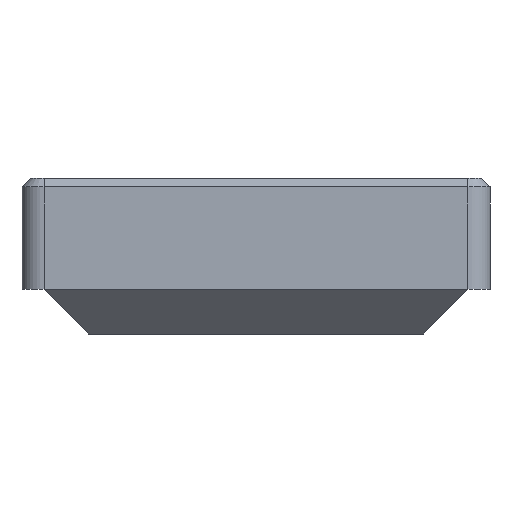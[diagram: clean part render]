
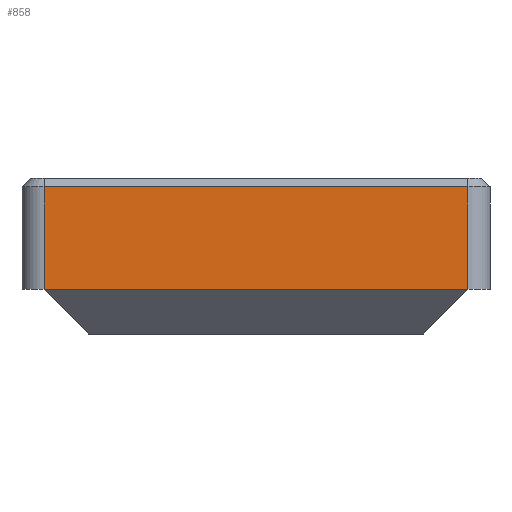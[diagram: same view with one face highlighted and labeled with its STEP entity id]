
A CAD part, left-side view. The second image highlights one B-rep face of the part: STEP entity #858.
In plain terms, the highlighted planar face has unit normal (-1, 0, 0).
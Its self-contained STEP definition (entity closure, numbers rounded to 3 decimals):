
#54=PLANE('',#945);
#103=FACE_OUTER_BOUND('',#156,.T.);
#156=EDGE_LOOP('',(#776,#777,#778,#779));
#239=LINE('',#1393,#333);
#248=LINE('',#1419,#342);
#250=LINE('',#1424,#344);
#251=LINE('',#1427,#345);
#333=VECTOR('',#1139,10.);
#342=VECTOR('',#1168,10.);
#344=VECTOR('',#1174,10.);
#345=VECTOR('',#1179,10.);
#440=VERTEX_POINT('',#1387);
#441=VERTEX_POINT('',#1391);
#448=VERTEX_POINT('',#1417);
#449=VERTEX_POINT('',#1423);
#546=EDGE_CURVE('',#440,#441,#239,.T.);
#559=EDGE_CURVE('',#448,#440,#248,.T.);
#561=EDGE_CURVE('',#441,#449,#250,.T.);
#563=EDGE_CURVE('',#449,#448,#251,.T.);
#776=ORIENTED_EDGE('',*,*,#546,.F.);
#777=ORIENTED_EDGE('',*,*,#559,.F.);
#778=ORIENTED_EDGE('',*,*,#563,.F.);
#779=ORIENTED_EDGE('',*,*,#561,.F.);
#858=ADVANCED_FACE('',(#103),#54,.T.);
#945=AXIS2_PLACEMENT_3D('',#1426,#1177,#1178);
#1139=DIRECTION('',(0.,-1.,0.));
#1168=DIRECTION('',(0.,0.,1.));
#1174=DIRECTION('',(0.,0.,-1.));
#1177=DIRECTION('center_axis',(-1.,0.,0.));
#1178=DIRECTION('ref_axis',(0.,-1.,0.));
#1179=DIRECTION('',(0.,1.,0.));
#1387=CARTESIAN_POINT('',(0.,-130.,23.));
#1391=CARTESIAN_POINT('',(0.,-225.,23.));
#1393=CARTESIAN_POINT('',(0.,-151.25,23.));
#1417=CARTESIAN_POINT('',(0.,-130.,0.));
#1419=CARTESIAN_POINT('',(0.,-130.,0.));
#1423=CARTESIAN_POINT('',(0.,-225.,0.));
#1424=CARTESIAN_POINT('',(0.,-225.,0.));
#1426=CARTESIAN_POINT('Origin',(0.,-125.,0.));
#1427=CARTESIAN_POINT('',(0.,-230.,0.));
